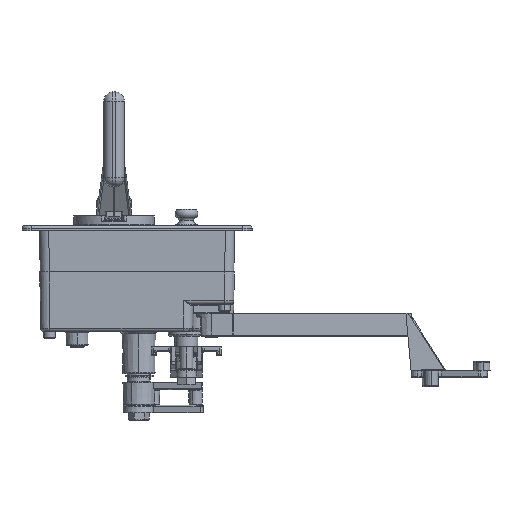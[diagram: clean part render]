
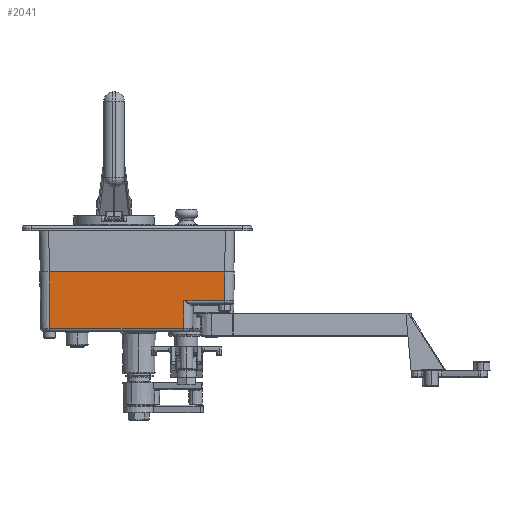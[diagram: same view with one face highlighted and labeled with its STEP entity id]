
A CAD part, left-side view. The second image highlights one B-rep face of the part: STEP entity #2041.
In plain terms, the highlighted planar face has unit normal (-1, 0, -0.018).
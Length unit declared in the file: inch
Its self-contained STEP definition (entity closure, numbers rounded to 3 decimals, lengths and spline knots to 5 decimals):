
#2041 = ADVANCED_FACE ( 'NONE', ( #12373 ), #22925, .T. ) ;
#2170 = EDGE_CURVE ( 'NONE', #10135, #7746, #40003, .T. ) ;
#2599 = CARTESIAN_POINT ( 'NONE',  ( -1.98333, -1.88537, -2.64789 ) ) ;
#3590 = VERTEX_POINT ( 'NONE', #19812 ) ;
#4283 = DIRECTION ( 'NONE',  ( 0., -1., 0. ) ) ;
#4588 = EDGE_CURVE ( 'NONE', #3590, #7431, #45509, .T. ) ;
#4931 = VECTOR ( 'NONE', #44809, 39.37008 ) ;
#5538 = EDGE_CURVE ( 'NONE', #8459, #10135, #36382, .T. ) ;
#5659 = LINE ( 'NONE', #12224, #4931 ) ;
#6063 = CARTESIAN_POINT ( 'NONE',  ( -2.01, 1.75238, -1.12 ) ) ;
#6703 = ORIENTED_EDGE ( 'NONE', *, *, #4588, .T. ) ;
#7246 = CARTESIAN_POINT ( 'NONE',  ( -2.01, -3.00237, -1.12 ) ) ;
#7431 = VERTEX_POINT ( 'NONE', #7246 ) ;
#7463 = ORIENTED_EDGE ( 'NONE', *, *, #24954, .F. ) ;
#7746 = VERTEX_POINT ( 'NONE', #9125 ) ;
#8459 = VERTEX_POINT ( 'NONE', #21201 ) ;
#9125 = CARTESIAN_POINT ( 'NONE',  ( -1.99633, -1.89837, -1.90289 ) ) ;
#9389 = CARTESIAN_POINT ( 'NONE',  ( -2.01, -3.00237, -1.12 ) ) ;
#9755 = EDGE_LOOP ( 'NONE', ( #19936, #12916, #6703, #42271, #7463, #45597 ) ) ;
#10135 = VERTEX_POINT ( 'NONE', #2599 ) ;
#11185 = CARTESIAN_POINT ( 'NONE',  ( -2.00888, -1.91092, -1.18392 ) ) ;
#11325 = DIRECTION ( 'NONE',  ( 0., -1., 0. ) ) ;
#12224 = CARTESIAN_POINT ( 'NONE',  ( -1.99633, 1.75238, -1.90289 ) ) ;
#12373 = FACE_OUTER_BOUND ( 'NONE', #9755, .T. ) ;
#12916 = ORIENTED_EDGE ( 'NONE', *, *, #14861, .T. ) ;
#13090 = CARTESIAN_POINT ( 'NONE',  ( -2.01, 1.75238, -1.12 ) ) ;
#13375 = DIRECTION ( 'NONE',  ( -0.017, 0., 1. ) ) ;
#13604 = VECTOR ( 'NONE', #44595, 39.37008 ) ;
#13732 = LINE ( 'NONE', #24518, #35108 ) ;
#14861 = EDGE_CURVE ( 'NONE', #7746, #3590, #5659, .T. ) ;
#15054 = VECTOR ( 'NONE', #4283, 39.37008 ) ;
#15905 = DIRECTION ( 'NONE',  ( -1., 0., -0.017 ) ) ;
#18643 = DIRECTION ( 'NONE',  ( -0.017, -0.017, 1. ) ) ;
#19812 = CARTESIAN_POINT ( 'NONE',  ( -1.99633, -3.00237, -1.90289 ) ) ;
#19936 = ORIENTED_EDGE ( 'NONE', *, *, #2170, .T. ) ;
#21201 = CARTESIAN_POINT ( 'NONE',  ( -1.98333, 1.75238, -2.64789 ) ) ;
#21611 = CARTESIAN_POINT ( 'NONE',  ( -1.98333, 1.75238, -2.64789 ) ) ;
#22925 = PLANE ( 'NONE',  #29439 ) ;
#24518 = CARTESIAN_POINT ( 'NONE',  ( -2.01, 1.75238, -1.12 ) ) ;
#24954 = EDGE_CURVE ( 'NONE', #8459, #38069, #46145, .T. ) ;
#27432 = VECTOR ( 'NONE', #18643, 39.37008 ) ;
#28822 = EDGE_CURVE ( 'NONE', #38069, #7431, #13732, .T. ) ;
#29439 = AXIS2_PLACEMENT_3D ( 'NONE', #6063, #15905, #37938 ) ;
#34056 = CARTESIAN_POINT ( 'NONE',  ( -2.01, 1.75238, -1.12 ) ) ;
#35108 = VECTOR ( 'NONE', #11325, 39.37008 ) ;
#36382 = LINE ( 'NONE', #21611, #15054 ) ;
#37938 = DIRECTION ( 'NONE',  ( -0.017, 0., 1. ) ) ;
#38069 = VERTEX_POINT ( 'NONE', #13090 ) ;
#40003 = LINE ( 'NONE', #11185, #27432 ) ;
#40177 = VECTOR ( 'NONE', #13375, 39.37008 ) ;
#42271 = ORIENTED_EDGE ( 'NONE', *, *, #28822, .F. ) ;
#44595 = DIRECTION ( 'NONE',  ( -0.017, 0., 1. ) ) ;
#44809 = DIRECTION ( 'NONE',  ( 0., -1., 0. ) ) ;
#45509 = LINE ( 'NONE', #9389, #40177 ) ;
#45597 = ORIENTED_EDGE ( 'NONE', *, *, #5538, .T. ) ;
#46145 = LINE ( 'NONE', #34056, #13604 ) ;
